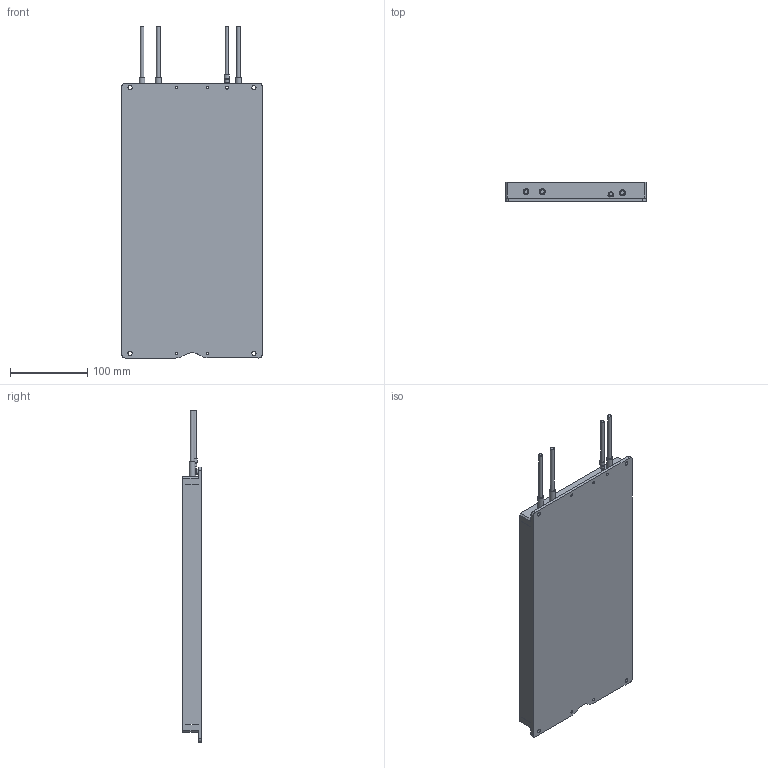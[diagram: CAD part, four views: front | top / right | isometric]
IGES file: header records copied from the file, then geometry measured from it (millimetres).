
Global section: file name: TWC-2500W-A-RXCOIL-H24.5; native system: Autodesk Inventor 2021; preprocessor: unknown; author: eunsol jang; date: 20240531.134833; units: inch
Bounding box: 181 x 24.6 x 428.7 mm (x, y, z)
Volume: 663217.8 mm3; surface area: 276968.1 mm2
Topology: 2 solids, 2 shells, 1487 faces, 3963 edges, 2648 vertices
Faces by surface type: bspline 1487
